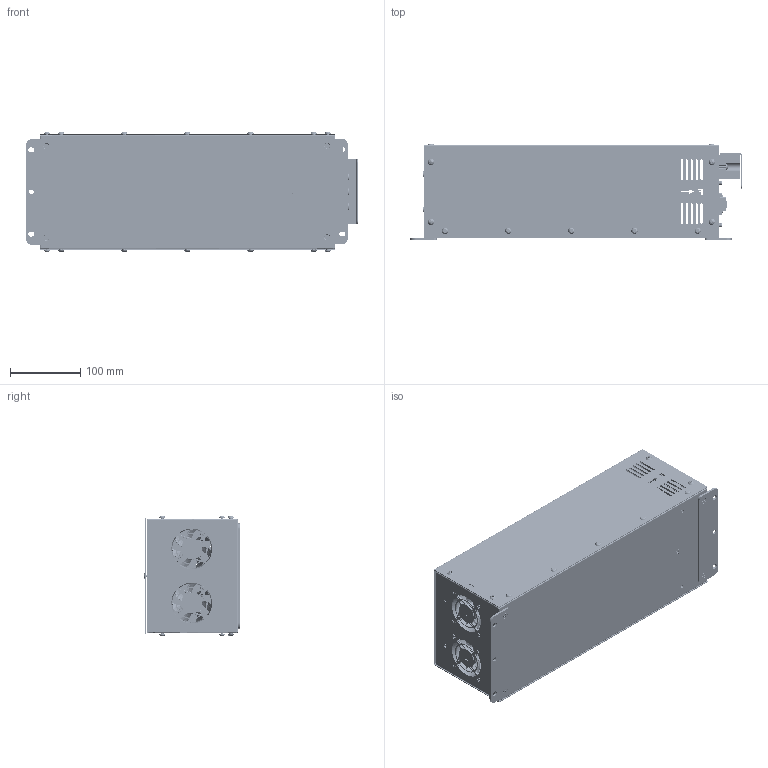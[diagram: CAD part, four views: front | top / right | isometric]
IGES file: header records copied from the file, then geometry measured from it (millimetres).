
Global section: file name: VX2COM_OLED_2026.06.09_단순화_1; native system: Autodesk Inventor 2026; preprocessor: unknown; author: Administrator; date: 20260609.163700; units: millimetre
Bounding box: 471.76 x 137.64 x 171.09 mm (x, y, z)
Volume: 596985.4 mm3; surface area: 742646.1 mm2
Topology: 14 solids, 14 shells, 6832 faces, 18819 edges, 12448 vertices
Faces by surface type: bspline 6832
